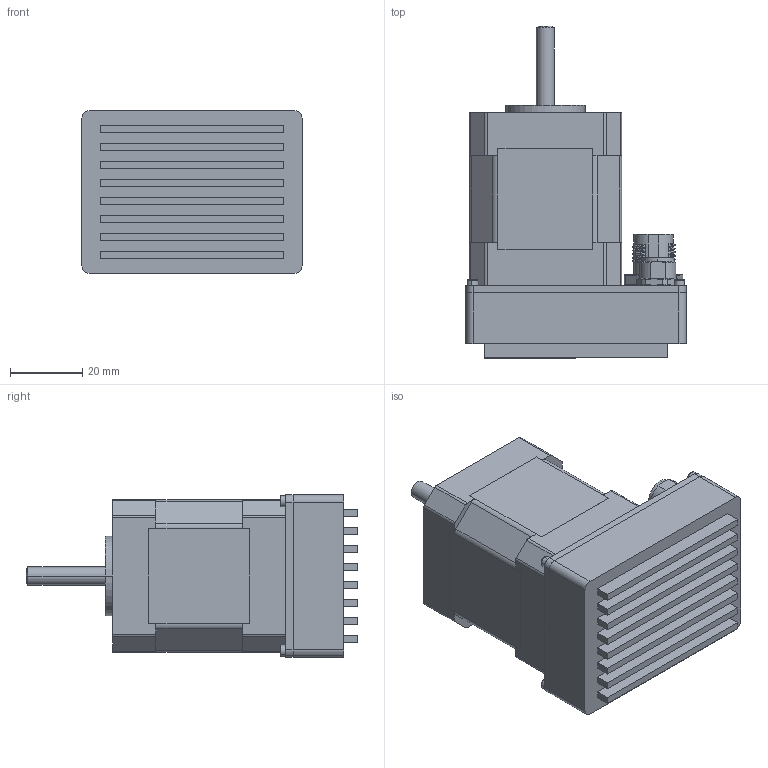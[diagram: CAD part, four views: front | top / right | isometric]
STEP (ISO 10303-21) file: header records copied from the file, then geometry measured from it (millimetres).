
FILE_DESCRIPTION (( 'STEP AP214' ), '1' );
FILE_NAME ('iMOT172S-TM-CAN.STEP', '2015-10-14T12:42:22', ( 'a_neacsu' ), ( '' ), 'SwSTEP 2.0', 'SolidWorks 2013', '' );
FILE_SCHEMA (( 'AUTOMOTIVE_DESIGN' ));
Length unit declared in the file: millimetre
Products named in the file (18): M12.PlasticInsert.PhCont1442081; M8 DeviceNet 1424242; M8 DeviceNet 1424241; LED_3mm; P026.710.0013.20A - Singleboard; bn7_screw_inbus_m1.6_6; Magnet; MP042NB530.P5; iMOT172S-TM-CAN; M8 DeviceNet Nut male; M8 DeviceNet Nut female; M12.MetalHousing.PhCont1551493; P026.759.0011.01A.Cover_D‚faut; Nut; O-Ring; Cylinder; P026.759.0010.01C.Baseplate.TM.CAN_D‚faut; P026.610.0013.20A - Singleboard_TM-CAN-User
Assembly tree (21 placements, depth 3):
  iMOT172S-TM-CAN
    MP042NB530.P5
    Magnet
    bn7_screw_inbus_m1.6_6  x4
    P026.610.0013.20A - Singleboard_TM-CAN-User
      P026.710.0013.20A - Singleboard
      LED_3mm  x2
      M8 DeviceNet 1424241
      M8 DeviceNet 1424242
      M12.PlasticInsert.PhCont1442081
    P026.759.0010.01C.Baseplate.TM.CAN_D‚faut
    M12.MetalHousing.PhCont1551493
      Cylinder
      O-Ring
      Nut
    M8 DeviceNet Nut female
    M8 DeviceNet Nut male
    P026.759.0011.01A.Cover_D‚faut
Bounding box: 61 x 92 x 45 mm (x, y, z)
Volume: 109556.2 mm3; surface area: 44330.6 mm2
Topology: 19 solids, 21 shells, 2691 faces, 7018 edges, 4474 vertices
Faces by surface type: plane 1127, cylinder 1051, cone 207, bspline 116, torus 104, sphere 86
Entity records: 94472 total; most frequent: CARTESIAN_POINT 22031, ORIENTED_EDGE 12572, DIRECTION 12522, EDGE_CURVE 6286, AXIS2_PLACEMENT_3D 4613, VERTEX_POINT 4072, VECTOR 3296, LINE 3296
